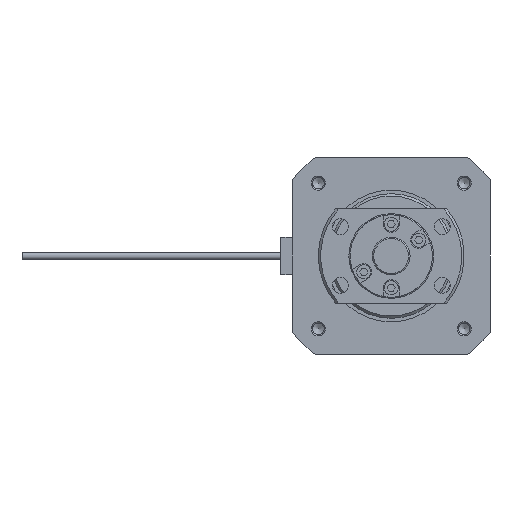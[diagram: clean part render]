
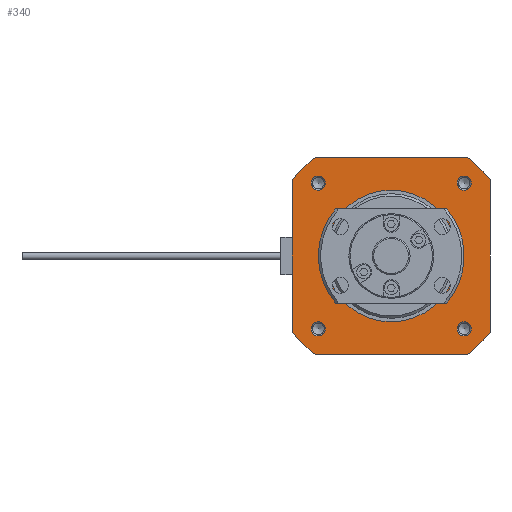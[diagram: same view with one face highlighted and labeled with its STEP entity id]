
A CAD part, left-side view. The second image highlights one B-rep face of the part: STEP entity #340.
In plain terms, the highlighted planar face has unit normal (-1, 0, 0) as drawn and (0, 0, 1) by its records, which use the part's own axes.
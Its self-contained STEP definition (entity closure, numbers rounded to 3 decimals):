
#340 = ADVANCED_FACE( '', ( #828, #829, #830, #831, #832, #833 ), #834, .T. );
#828 = FACE_BOUND( '', #1533, .T. );
#829 = FACE_BOUND( '', #1534, .T. );
#830 = FACE_BOUND( '', #1535, .T. );
#831 = FACE_BOUND( '', #1536, .T. );
#832 = FACE_BOUND( '', #1537, .T. );
#833 = FACE_OUTER_BOUND( '', #1538, .T. );
#834 = PLANE( '', #1539 );
#1533 = EDGE_LOOP( '', ( #2416 ) );
#1534 = EDGE_LOOP( '', ( #2417 ) );
#1535 = EDGE_LOOP( '', ( #2418 ) );
#1536 = EDGE_LOOP( '', ( #2419 ) );
#1537 = EDGE_LOOP( '', ( #2420 ) );
#1538 = EDGE_LOOP( '', ( #2421, #2422, #2423, #2424, #2425, #2426, #2427, #2428 ) );
#1539 = AXIS2_PLACEMENT_3D( '', #2429, #2430, #2431 );
#2416 = ORIENTED_EDGE( '', *, *, #3787, .T. );
#2417 = ORIENTED_EDGE( '', *, *, #3943, .T. );
#2418 = ORIENTED_EDGE( '', *, *, #3944, .T. );
#2419 = ORIENTED_EDGE( '', *, *, #3945, .T. );
#2420 = ORIENTED_EDGE( '', *, *, #3946, .T. );
#2421 = ORIENTED_EDGE( '', *, *, #3947, .T. );
#2422 = ORIENTED_EDGE( '', *, *, #3948, .T. );
#2423 = ORIENTED_EDGE( '', *, *, #3949, .T. );
#2424 = ORIENTED_EDGE( '', *, *, #3950, .T. );
#2425 = ORIENTED_EDGE( '', *, *, #3825, .T. );
#2426 = ORIENTED_EDGE( '', *, *, #3806, .T. );
#2427 = ORIENTED_EDGE( '', *, *, #3951, .T. );
#2428 = ORIENTED_EDGE( '', *, *, #3952, .T. );
#2429 = CARTESIAN_POINT( '', ( 0., 0., -205. ) );
#2430 = DIRECTION( '', ( 0., 0., 1. ) );
#2431 = DIRECTION( '', ( 1., 0., 0. ) );
#3787 = EDGE_CURVE( '', #4442, #4442, #4443, .T. );
#3806 = EDGE_CURVE( '', #4475, #4473, #4476, .T. );
#3825 = EDGE_CURVE( '', #4508, #4475, #4509, .T. );
#3943 = EDGE_CURVE( '', #4709, #4709, #4710, .T. );
#3944 = EDGE_CURVE( '', #4711, #4711, #4712, .T. );
#3945 = EDGE_CURVE( '', #4713, #4713, #4714, .T. );
#3946 = EDGE_CURVE( '', #4715, #4715, #4716, .T. );
#3947 = EDGE_CURVE( '', #4717, #4718, #4719, .T. );
#3948 = EDGE_CURVE( '', #4718, #4720, #4721, .T. );
#3949 = EDGE_CURVE( '', #4720, #4722, #4723, .T. );
#3950 = EDGE_CURVE( '', #4722, #4508, #4724, .T. );
#3951 = EDGE_CURVE( '', #4473, #4725, #4726, .T. );
#3952 = EDGE_CURVE( '', #4725, #4717, #4727, .T. );
#4442 = VERTEX_POINT( '', #5391 );
#4443 = CIRCLE( '', #5392, 1.5 );
#4473 = VERTEX_POINT( '', #5432 );
#4475 = VERTEX_POINT( '', #5435 );
#4476 = CIRCLE( '', #5436, 26.5 );
#4508 = VERTEX_POINT( '', #5482 );
#4509 = LINE( '', #5483, #5484 );
#4709 = VERTEX_POINT( '', #5749 );
#4710 = CIRCLE( '', #5750, 1.5 );
#4711 = VERTEX_POINT( '', #5751 );
#4712 = CIRCLE( '', #5752, 1.5 );
#4713 = VERTEX_POINT( '', #5753 );
#4714 = CIRCLE( '', #5754, 1.5 );
#4715 = VERTEX_POINT( '', #5755 );
#4716 = CIRCLE( '', #5756, 14. );
#4717 = VERTEX_POINT( '', #5757 );
#4718 = VERTEX_POINT( '', #5758 );
#4719 = LINE( '', #5759, #5760 );
#4720 = VERTEX_POINT( '', #5761 );
#4721 = CIRCLE( '', #5762, 26.5 );
#4722 = VERTEX_POINT( '', #5763 );
#4723 = LINE( '', #5764, #5765 );
#4724 = CIRCLE( '', #5766, 26.5 );
#4725 = VERTEX_POINT( '', #5767 );
#4726 = LINE( '', #5768, #5769 );
#4727 = CIRCLE( '', #5770, 26.5 );
#5391 = CARTESIAN_POINT( '', ( 14., -15.5, -205. ) );
#5392 = AXIS2_PLACEMENT_3D( '', #6604, #6605, #6606 );
#5432 = CARTESIAN_POINT( '', ( 16.163, 21., -205. ) );
#5435 = CARTESIAN_POINT( '', ( 21., 16.163, -205. ) );
#5436 = AXIS2_PLACEMENT_3D( '', #6627, #6628, #6629 );
#5482 = CARTESIAN_POINT( '', ( 21., -16.163, -205. ) );
#5483 = CARTESIAN_POINT( '', ( 21., -16.163, -205. ) );
#5484 = VECTOR( '', #6650, 1000. );
#5749 = CARTESIAN_POINT( '', ( -17., -15.5, -205. ) );
#5750 = AXIS2_PLACEMENT_3D( '', #6800, #6801, #6802 );
#5751 = CARTESIAN_POINT( '', ( -17., 15.5, -205. ) );
#5752 = AXIS2_PLACEMENT_3D( '', #6803, #6804, #6805 );
#5753 = CARTESIAN_POINT( '', ( 14., 15.5, -205. ) );
#5754 = AXIS2_PLACEMENT_3D( '', #6806, #6807, #6808 );
#5755 = CARTESIAN_POINT( '', ( -14., 0., -205. ) );
#5756 = AXIS2_PLACEMENT_3D( '', #6809, #6810, #6811 );
#5757 = CARTESIAN_POINT( '', ( -21., 16.163, -205. ) );
#5758 = CARTESIAN_POINT( '', ( -21., -16.163, -205. ) );
#5759 = CARTESIAN_POINT( '', ( -21., 16.163, -205. ) );
#5760 = VECTOR( '', #6812, 1000. );
#5761 = CARTESIAN_POINT( '', ( -16.163, -21., -205. ) );
#5762 = AXIS2_PLACEMENT_3D( '', #6813, #6814, #6815 );
#5763 = CARTESIAN_POINT( '', ( 16.163, -21., -205. ) );
#5764 = CARTESIAN_POINT( '', ( -16.163, -21., -205. ) );
#5765 = VECTOR( '', #6816, 1000. );
#5766 = AXIS2_PLACEMENT_3D( '', #6817, #6818, #6819 );
#5767 = CARTESIAN_POINT( '', ( -16.163, 21., -205. ) );
#5768 = CARTESIAN_POINT( '', ( 16.163, 21., -205. ) );
#5769 = VECTOR( '', #6820, 1000. );
#5770 = AXIS2_PLACEMENT_3D( '', #6821, #6822, #6823 );
#6604 = CARTESIAN_POINT( '', ( 15.5, -15.5, -205. ) );
#6605 = DIRECTION( '', ( 0., 0., -1. ) );
#6606 = DIRECTION( '', ( -1., 0., 0. ) );
#6627 = CARTESIAN_POINT( '', ( 0., 0., -205. ) );
#6628 = DIRECTION( '', ( 0., 0., 1. ) );
#6629 = DIRECTION( '', ( 1., 0., 0. ) );
#6650 = DIRECTION( '', ( 0., 1., 0. ) );
#6800 = CARTESIAN_POINT( '', ( -15.5, -15.5, -205. ) );
#6801 = DIRECTION( '', ( 0., 0., -1. ) );
#6802 = DIRECTION( '', ( -1., 0., 0. ) );
#6803 = CARTESIAN_POINT( '', ( -15.5, 15.5, -205. ) );
#6804 = DIRECTION( '', ( 0., 0., -1. ) );
#6805 = DIRECTION( '', ( -1., 0., 0. ) );
#6806 = CARTESIAN_POINT( '', ( 15.5, 15.5, -205. ) );
#6807 = DIRECTION( '', ( 0., 0., -1. ) );
#6808 = DIRECTION( '', ( -1., 0., 0. ) );
#6809 = CARTESIAN_POINT( '', ( 0., 0., -205. ) );
#6810 = DIRECTION( '', ( 0., 0., -1. ) );
#6811 = DIRECTION( '', ( -1., 0., 0. ) );
#6812 = DIRECTION( '', ( 0., -1., 0. ) );
#6813 = CARTESIAN_POINT( '', ( 0., 0., -205. ) );
#6814 = DIRECTION( '', ( 0., 0., 1. ) );
#6815 = DIRECTION( '', ( 1., 0., 0. ) );
#6816 = DIRECTION( '', ( 1., 0., 0. ) );
#6817 = CARTESIAN_POINT( '', ( 0., 0., -205. ) );
#6818 = DIRECTION( '', ( 0., 0., 1. ) );
#6819 = DIRECTION( '', ( 1., 0., 0. ) );
#6820 = DIRECTION( '', ( -1., 0., 0. ) );
#6821 = CARTESIAN_POINT( '', ( 0., 0., -205. ) );
#6822 = DIRECTION( '', ( 0., 0., 1. ) );
#6823 = DIRECTION( '', ( 1., 0., 0. ) );
